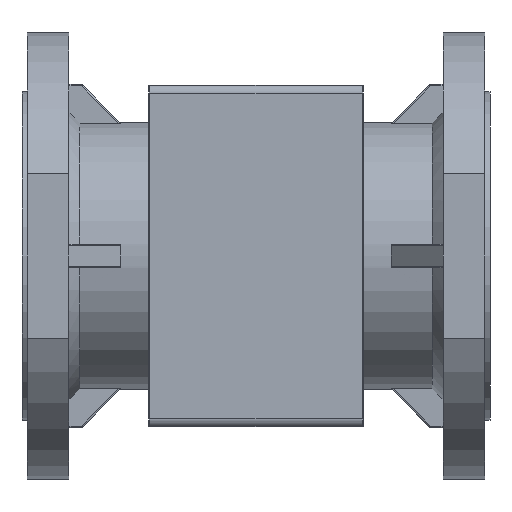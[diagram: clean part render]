
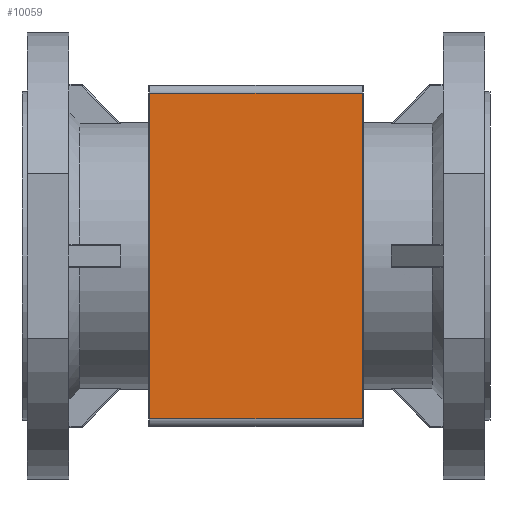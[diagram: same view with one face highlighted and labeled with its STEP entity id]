
A CAD part, front view. The second image highlights one B-rep face of the part: STEP entity #10059.
In plain terms, the highlighted planar face has unit normal (0, -1, 0).
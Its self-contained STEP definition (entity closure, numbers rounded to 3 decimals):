
#5158 = CARTESIAN_POINT ( 'NONE',  ( 68., -100., 104. ) ) ;
#10059 = ADVANCED_FACE ( 'NONE', ( #126143 ), #209864, .T. ) ;
#18083 = AXIS2_PLACEMENT_3D ( 'NONE', #167091, #84906, #230803 ) ;
#20763 = ORIENTED_EDGE ( 'NONE', *, *, #69542, .T. ) ;
#30322 = ORIENTED_EDGE ( 'NONE', *, *, #78656, .T. ) ;
#35020 = VECTOR ( 'NONE', #110390, 1000. ) ;
#35556 = VECTOR ( 'NONE', #69485, 1000. ) ;
#37420 = VERTEX_POINT ( 'NONE', #107341 ) ;
#38213 = DIRECTION ( 'NONE',  ( -1., 0., 0. ) ) ;
#48532 = CARTESIAN_POINT ( 'NONE',  ( -68., -100., 109. ) ) ;
#51889 = VECTOR ( 'NONE', #38213, 1000. ) ;
#67591 = CARTESIAN_POINT ( 'NONE',  ( 68., -100., -104. ) ) ;
#67727 = EDGE_LOOP ( 'NONE', ( #30322, #20763, #87257, #184053 ) ) ;
#69485 = DIRECTION ( 'NONE',  ( 0., 0., -1. ) ) ;
#69542 = EDGE_CURVE ( 'NONE', #257310, #243083, #267289, .T. ) ;
#78656 = EDGE_CURVE ( 'NONE', #105351, #257310, #188093, .T. ) ;
#84906 = DIRECTION ( 'NONE',  ( 0., -1., 0. ) ) ;
#87257 = ORIENTED_EDGE ( 'NONE', *, *, #268758, .T. ) ;
#90386 = LINE ( 'NONE', #67591, #35020 ) ;
#90892 = LINE ( 'NONE', #48532, #35556 ) ;
#96024 = CARTESIAN_POINT ( 'NONE',  ( 68., -100., -104. ) ) ;
#105351 = VERTEX_POINT ( 'NONE', #96024 ) ;
#105819 = EDGE_CURVE ( 'NONE', #37420, #105351, #90386, .T. ) ;
#107341 = CARTESIAN_POINT ( 'NONE',  ( -68., -100., -104. ) ) ;
#110390 = DIRECTION ( 'NONE',  ( 1., 0., 0. ) ) ;
#126143 = FACE_OUTER_BOUND ( 'NONE', #67727, .T. ) ;
#143333 = CARTESIAN_POINT ( 'NONE',  ( 68., -100., 109. ) ) ;
#167091 = CARTESIAN_POINT ( 'NONE',  ( 68.5, -100., 109. ) ) ;
#184053 = ORIENTED_EDGE ( 'NONE', *, *, #105819, .T. ) ;
#188093 = LINE ( 'NONE', #143333, #243491 ) ;
#206792 = CARTESIAN_POINT ( 'NONE',  ( -68., -100., 104. ) ) ;
#209864 = PLANE ( 'NONE',  #18083 ) ;
#225302 = CARTESIAN_POINT ( 'NONE',  ( -68., -100., 104. ) ) ;
#230803 = DIRECTION ( 'NONE',  ( 0., 0., -1. ) ) ;
#243083 = VERTEX_POINT ( 'NONE', #225302 ) ;
#243491 = VECTOR ( 'NONE', #249113, 1000. ) ;
#249113 = DIRECTION ( 'NONE',  ( 0., 0., 1. ) ) ;
#257310 = VERTEX_POINT ( 'NONE', #5158 ) ;
#267289 = LINE ( 'NONE', #206792, #51889 ) ;
#268758 = EDGE_CURVE ( 'NONE', #243083, #37420, #90892, .T. ) ;
